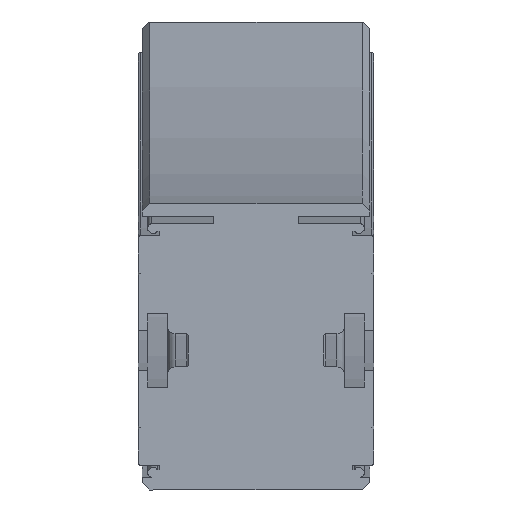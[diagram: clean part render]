
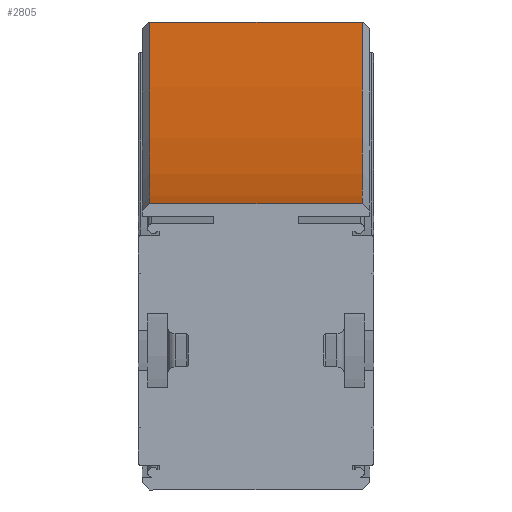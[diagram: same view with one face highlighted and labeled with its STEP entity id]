
A CAD part, front view. The second image highlights one B-rep face of the part: STEP entity #2805.
In plain terms, the highlighted cylindrical face has radius 820 mm (diameter 1640 mm), a partial arc.
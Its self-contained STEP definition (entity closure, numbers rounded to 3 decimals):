
#92=CYLINDRICAL_SURFACE('',#3101,820.);
#315=CIRCLE('',#3100,820.);
#316=CIRCLE('',#3102,820.);
#474=FACE_OUTER_BOUND('',#628,.T.);
#628=EDGE_LOOP('',(#2299,#2300,#2301,#2302));
#821=LINE('',#9361,#1027);
#822=LINE('',#9363,#1028);
#1027=VECTOR('',#3830,10.);
#1028=VECTOR('',#3831,10.);
#1299=VERTEX_POINT('',#9354);
#1300=VERTEX_POINT('',#9356);
#1301=VERTEX_POINT('',#9360);
#1302=VERTEX_POINT('',#9362);
#1698=EDGE_CURVE('',#1299,#1300,#315,.T.);
#1699=EDGE_CURVE('',#1301,#1299,#821,.T.);
#1700=EDGE_CURVE('',#1302,#1300,#822,.T.);
#1701=EDGE_CURVE('',#1301,#1302,#316,.T.);
#2299=ORIENTED_EDGE('',*,*,#1699,.T.);
#2300=ORIENTED_EDGE('',*,*,#1698,.T.);
#2301=ORIENTED_EDGE('',*,*,#1700,.F.);
#2302=ORIENTED_EDGE('',*,*,#1701,.F.);
#2805=ADVANCED_FACE('',(#474),#92,.F.);
#3100=AXIS2_PLACEMENT_3D('',#9358,#3826,#3827);
#3101=AXIS2_PLACEMENT_3D('',#9359,#3828,#3829);
#3102=AXIS2_PLACEMENT_3D('',#9364,#3832,#3833);
#3826=DIRECTION('center_axis',(1.,0.,0.));
#3827=DIRECTION('ref_axis',(0.,0.,-1.));
#3828=DIRECTION('center_axis',(1.,0.,0.));
#3829=DIRECTION('ref_axis',(0.,0.,-1.));
#3830=DIRECTION('',(1.,0.,0.));
#3831=DIRECTION('',(1.,0.,0.));
#3832=DIRECTION('center_axis',(1.,0.,0.));
#3833=DIRECTION('ref_axis',(0.,0.,
-1.));
#9354=CARTESIAN_POINT('',(29.,0.,40.));
#9356=CARTESIAN_POINT('',(29.,280.457,89.452));
#9358=CARTESIAN_POINT('Origin',(29.,0.,
860.));
#9359=CARTESIAN_POINT('Origin',(-14.5,0.,860.));
#9360=CARTESIAN_POINT('',(-29.,0.,40.));
#9361=CARTESIAN_POINT('',(-29.,0.,40.));
#9362=CARTESIAN_POINT('',(-29.,280.457,89.452));
#9363=CARTESIAN_POINT('',(-29.,280.457,89.452));
#9364=CARTESIAN_POINT('Origin',(-29.,0.,860.));
